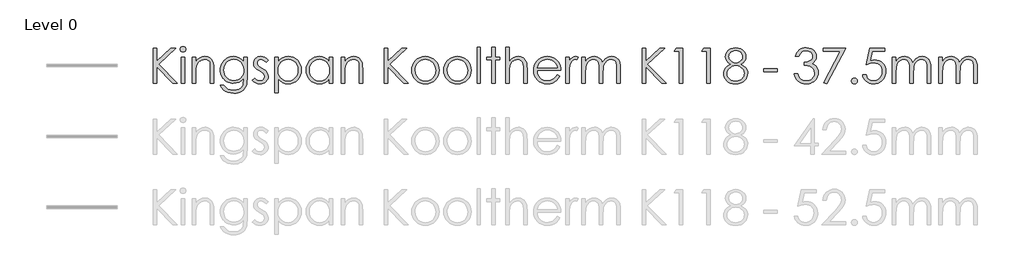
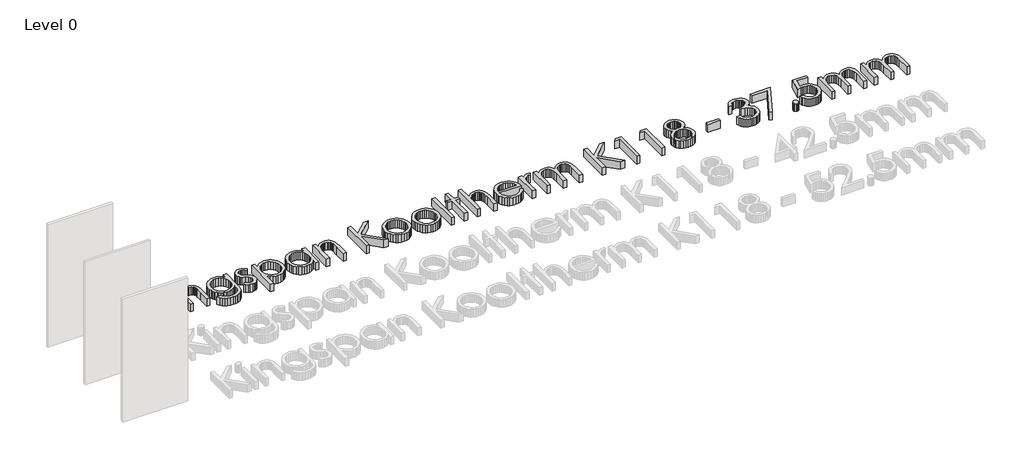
# One storey, part 8 of 8: 1 proxy.
"""IFC4 building model written with IfcOpenShell, lengths in millimetres."""

from ifc_helpers import new_model, si_unit, origin, origin_with_axes, place, context, project, spatial, polyline, outline, extrude, element, save

model = new_model("IFC4")

# Units and contexts
model_context = context("Model", 3, world=origin())
ifc_project = project(units=[si_unit("LENGTHUNIT", "METRE", prefix="MILLI")], contexts=[model_context])

# Site, building, storey
site = spatial("IfcSite", under=ifc_project)
building = spatial("IfcBuilding", under=site)
storey = spatial("IfcBuildingStorey", under=building, Name="Level 0", Elevation=0.0)

# Proxy
placement = place(None, origin())
element("IfcBuildingElementProxy", 1, Name="600mm KI_CenturyGothic", ObjectType="600mm KI_CenturyGothic", at=placement, inside=storey, context=model_context, shape_type="SweptSolid", body=[
    extrude(outline(polyline([(-3852.2663848, 5900.8965983), (-3792.944575, 5900.8965983), (-3792.944575, 5681.683973), (-3555.1938841, 5900.8965983), (-3471.6181051, 5900.8965983), (-3760.9664119, 5633.9484541), (-3441.9572002, 5307.6785001), (-3520.8984627, 5307.6785001), (-3792.944575, 5585.9039675), (-3792.944575, 5307.6785001), (-3852.2663848, 5307.6785001), (-3852.2663848, 5900.8965983)])), origin_with_axes(), (0.0, 0.0, 1.0), 150.0),
    extrude(outline(polyline([(-3348.1854852, 5930.5575033), (-3329.145347, 5927.2747208), (-3313.1176445, 5917.4263735), (-3302.226531, 5902.9821307), (-3298.5961598, 5885.911662), (-3302.226531, 5869.0729191), (-3313.1176445, 5854.7059183), (-3329.145347, 5844.857571), (-3348.1854852, 5841.5747885), (-3366.9938975, 5844.857571), (-3382.9443581, 5854.7059183), (-3393.8354717, 5869.0729191), (-3397.4658428, 5885.911662), (-3393.8354717, 5902.9821307), (-3382.9443581, 5917.4263735), (-3366.9938975, 5927.2747208), (-3348.1854852, 5930.5575033)])), origin_with_axes(), (0.0, 0.0, 1.0), 150.0),
    extrude(outline(polyline([(-3377.6919062, 5752.5920738), (-3318.3700964, 5752.5920738), (-3318.3700964, 5307.6785001), (-3377.6919062, 5307.6785001), (-3377.6919062, 5752.5920738)])), origin_with_axes(), (0.0, 0.0, 1.0), 150.0),
    extrude(outline(polyline([(-3189.8395084, 5752.5920738), (-3130.5176986, 5752.5920738), (-3130.5176986, 5673.4963274), (-3096.9946967, 5713.0055796), (-3060.0730495, 5740.696815), (-3019.7141359, 5757.0334853), (-2975.879335, 5762.4790421), (-2953.4357238, 5760.9004099), (-2932.2955704, 5756.1645135), (-2912.4588747, 5748.2713528), (-2893.9256368, 5737.2209277), (-2877.212412, 5723.4960006), (-2862.835756, 5707.5793333), (-2841.0921499, 5669.1707787), (-2833.6238199, 5644.7912914), (-2828.2892984, 5614.4448643), (-2824.0216812, 5535.8511905), (-2824.0216812, 5307.6785001), (-2883.343491, 5307.6785001), (-2883.343491, 5520.8662542), (-2883.343491, 5623.907002), (-2884.7290183, 5644.7043943), (-2889.8125035, 5662.7596977), (-2898.2849788, 5678.0729123), (-2910.1464442, 5690.644038), (-2924.7403432, 5700.4441091), (-2941.4101193, 5707.4441599), (-2980.977303, 5713.0442006), (-3005.3471351, 5710.8862539), (-3028.4038541, 5704.4124138), (-3050.1474602, 5693.6226803), (-3070.5779533, 5678.5170534), (-3088.6622225, 5660.2348518), (-3103.3671568, 5639.915394), (-3114.6927562, 5617.55868), (-3122.6390208, 5593.1647099), (-3128.5480292, 5546.0857475), (-3130.5176986, 5471.5858965), (-3130.5176986, 5307.6785001), (-3189.8395084, 5307.6785001), (-3189.8395084, 5752.5920738)])), origin_with_axes(), (0.0, 0.0, 1.0), 150.0),
    extrude(outline(polyline([(-2319.7862977, 5752.5920738), (-2260.4644879, 5752.5920738), (-2260.4644879, 5401.604699), (-2264.5196897, 5321.3503235), (-2269.588692, 5290.5500999), (-2276.6852953, 5265.9678526), (-2289.9371156, 5237.3545415), (-2307.2924139, 5212.2267729), (-2328.7511904, 5190.5845469), (-2354.3134448, 5172.4278634), (-2383.3226209, 5158.0656902), (-2415.122162, 5147.8069951), (-2449.7120682, 5141.651778), (-2487.0923395, 5139.6000389), (-2541.0458345, 5143.6166198), (-2589.206184, 5155.6663624), (-2630.260275, 5174.4940853), (-2662.8949946, 5198.8446068), (-2690.2000204, 5232.1938144), (-2715.2650299, 5278.0175952), (-2655.94322, 5278.0175952), (-2642.4355358, 5256.848476), (-2627.0933555, 5238.6048954), (-2609.9166791, 5223.2868532), (-2590.9055067, 5210.8943494), (-2569.7894914, 5201.3308318), (-2546.2982864, 5194.4997477), (-2492.1903075, 5189.0348805), (-2438.5071593, 5194.3645743), (-2415.083541, 5201.0266916), (-2393.93856, 5210.3536559), (-2359.6624492, 5234.3952097), (-2336.8567664, 5263.8823202), (-2329.3884364, 5282.5217658), (-2324.0539149, 5306.2302137), (-2319.7862977, 5368.8541165), (-2319.7862977, 5391.5632468), (-2354.757586, 5355.7809182), (-2396.6420279, 5329.3834852), (-2443.392712, 5313.1047464), (-2492.9627269, 5307.6785001), (-2522.4063889, 5309.5757553), (-2550.9521133, 5315.2675207), (-2578.5999001, 5324.7537964), (-2605.3497494, 5338.0345825), (-2630.1540674, 5354.5257366), (-2651.9652601, 5373.6431168), (-2670.7833277, 5395.3867228), (-2686.6082702, 5419.7565549), (-2699.1456025, 5446.0719183), (-2708.1008399, 5473.6521184), (-2713.4739824, 5502.4971553), (-2715.2650299, 5532.607029), (-2713.3967404, 5562.8955247), (-2707.7918722, 5592.1219437), (-2698.4504251, 5620.286286), (-2685.3723991, 5647.3885517), (-2668.9971079, 5672.5742517), (-2649.7638648, 5694.9888971), (-2627.67267, 5714.632488), (-2602.7235235, 5731.5050242), (-2575.9833294, 5745.056157), (-2548.5189922, 5754.7355376), (-2520.3305117, 5760.543166), (-2491.4178881, 5762.4790421), (-2444.5320306, 5757.5355579), (-2400.8903346, 5742.7051055), (-2359.6045177, 5716.1338782), (-2319.7862977, 5675.9680694), (-2319.7862977, 5752.5920738)]), holes=[polyline([(-2484.1571458, 5713.0442006), (-2529.0154023, 5707.0193293), (-2570.5908765, 5688.9447153), (-2606.2187212, 5660.2300242), (-2633.2340897, 5622.2849212), (-2650.2659375, 5578.0059792), (-2655.94322, 5530.2897708), (-2653.0080263, 5494.3770964), (-2644.2024452, 5461.7182387), (-2629.5264766, 5432.3131977), (-2608.9801206, 5406.1619734), (-2583.7606272, 5384.703197), (-2555.0652466, 5369.3754996), (-2522.8939786, 5360.1788811), (-2487.2468234, 5357.1133416), (-2451.3244937, 5360.154743), (-2419.1001219, 5369.2789472), (-2390.573708, 5384.4859541), (-2365.7452519, 5405.7757637), (-2345.6382095, 5432.0187128), (-2331.2760363, 5462.0851379), (-2322.6587323, 5495.975039), (-2319.7862977, 5533.6884162), (-2325.0773706, 5582.3894593), (-2340.9505892, 5625.6063246), (-2366.4983608, 5661.8327944), (-2400.8130926, 5689.5626508), (-2440.9982119, 5707.1738131), (-2484.1571458, 5713.0442006)])]), origin_with_axes(), (0.0, 0.0, 1.0), 150.0),
    extrude(outline(polyline([(-1904.5336289, 5701.3034257), (-1940.9918246, 5663.609359), (-1962.9575012, 5685.2371022), (-1984.6721416, 5700.6854902), (-2006.1357456, 5709.954523), (-2027.3483133, 5713.0442006), (-2052.181597, 5708.3710632), (-2073.2300256, 5694.3516511), (-2087.5970264, 5674.1142629), (-2092.3860267, 5650.787197), (-2088.4466878, 5629.2366958), (-2076.628671, 5608.7675817), (-2052.0657341, 5586.599145), (-2010.2006027, 5560.877579), (-1958.3326401, 5528.0111336), (-1939.8428507, 5512.1861912), (-1926.315856, 5496.7667689), (-1909.9791857, 5464.0934284), (-1904.5336289, 5427.5579908), (-1906.9474396, 5401.4115941), (-1914.1888714, 5377.3507299), (-1926.2579245, 5355.375398), (-1943.1545989, 5335.4855985), (-1963.6719892, 5318.9944443), (-1986.6031901, 5307.2150485), (-2011.9482016, 5300.147411), (-2039.7070237, 5297.7915318), (-2077.4397114, 5301.6729393), (-2113.3958344, 5313.3171617), (-2145.4512394, 5331.7972958), (-2171.4817731, 5356.1864383), (-2135.7959969, 5396.6612148), (-2114.0041146, 5375.0334717), (-2091.5749863, 5359.5850837), (-2068.5086121, 5350.3160509), (-2044.8049918, 5347.2263733), (-2013.637869, 5352.8650349), (-1987.4914724, 5369.7810198), (-1969.7644472, 5394.3439566), (-1963.8554388, 5422.9234744), (-1967.7561567, 5446.7139919), (-1979.4583106, 5467.7237995), (-2005.0253927, 5489.4287846), (-2050.2119275, 5516.2317378), (-2099.762632, 5546.8967879), (-2117.441381, 5562.0555186), (-2130.3890611, 5577.0983864), (-2146.3781427, 5609.2310334), (-2151.7078365, 5645.689229), (-2149.5305794, 5669.7356104), (-2142.9988078, 5691.6674937), (-2132.1125219, 5711.4848789), (-2116.8717217, 5729.187766), (-2098.309518, 5743.7526993), (-2077.4590218, 5754.1562231), (-2054.3202332, 5760.3983373), (-2028.8931521, 5762.4790421), (-1997.9481, 5758.6555661), (-1966.9064954, 5747.185138), (-1935.7683384, 5728.0677579), (-1904.5336289, 5701.3034257)])), origin_with_axes(), (0.0, 0.0, 1.0), 150.0),
    extrude(outline(polyline([(-1795.7769776, 5752.5920738), (-1736.4551678, 5752.5920738), (-1736.4551678, 5671.4880369), (-1700.9238754, 5711.7310876), (-1660.4490989, 5740.0788795), (-1614.9922173, 5756.8790014), (-1564.5146096, 5762.4790421), (-1520.0618732, 5758.2403906), (-1478.9305402, 5745.5244363), (-1441.1206107, 5724.331179), (-1406.6320845, 5694.6606189), (-1377.9077381, 5659.0231189), (-1357.3903478, 5619.929042), (-1345.0799137, 5577.3783884), (-1340.9764356, 5531.371158), (-1345.0412927, 5484.4708176), (-1357.235864, 5441.2491246), (-1377.5601494, 5401.706079), (-1406.014149, 5365.8416808), (-1440.2130179, 5336.0697406), (-1477.7719111, 5314.8040691), (-1518.6908288, 5302.0446661), (-1562.9697708, 5297.7915318), (-1612.6170277, 5303.256399), (-1658.0545988, 5319.6510008), (-1699.3211052, 5346.8980951), (-1736.4551678, 5384.92044), (-1736.4551678, 5149.4870072), (-1795.7769776, 5149.4870072), (-1795.7769776, 5752.5920738)]), holes=[polyline([(-1568.5311905, 5713.0442006), (-1602.5852307, 5709.7469353), (-1633.8392507, 5699.8551393), (-1662.2932503, 5683.3688128), (-1687.9472295, 5660.2879556), (-1709.1694525, 5632.3022353), (-1724.3281832, 5601.1013192), (-1733.4234216, 5566.6852074), (-1736.4551678, 5529.0538998), (-1731.048232, 5480.1983728), (-1714.8274246, 5436.5180558), (-1688.5265441, 5399.6736505), (-1652.8793888, 5371.3258586), (-1611.4390881, 5353.2512446), (-1567.7587711, 5347.2263733), (-1525.0632888, 5353.2898656), (-1485.0326535, 5371.4803424), (-1450.2544701, 5400.5812433), (-1423.3163435, 5439.3760076), (-1406.05277, 5484.0411593), (-1400.2982454, 5530.7532225), (-1405.9948385, 5577.6970114), (-1423.0846177, 5622.1304373), (-1449.8103289, 5660.4810605), (-1484.414718, 5689.1764411), (-1524.7157001, 5707.0772607), (-1568.5311905, 5713.0442006)])]), origin_with_axes(), (0.0, 0.0, 1.0), 150.0),
    extrude(outline(polyline([(-807.0801472, 5752.5920738), (-807.0801472, 5307.6785001), (-866.401957, 5307.6785001), (-866.401957, 5383.5300851), (-903.4780882, 5345.6815345), (-944.8797679, 5318.9558233), (-990.4525125, 5303.0826047), (-1040.0418379, 5297.7915318), (-1084.3159523, 5302.0446661), (-1125.2203871, 5314.8040691), (-1162.7551422, 5336.0697406), (-1196.9202178, 5365.8416808), (-1225.340424, 5401.706079), (-1245.6405713, 5441.2491246), (-1257.8206597, 5484.4708176), (-1261.8806892, 5531.371158), (-1257.7820388, 5577.3783884), (-1245.4860875, 5619.929042), (-1224.9928353, 5659.0231189), (-1196.3022822, 5694.6606189), (-1161.8475494, 5724.331179), (-1124.061758, 5745.5244363), (-1082.9449079, 5758.2403906), (-1038.4969991, 5762.4790421), (-987.7490446, 5756.8790014), (-942.0990581, 5740.0788795), (-921.2051134, 5727.3918909), (-901.6242816, 5711.7310876), (-866.401957, 5671.4880369), (-866.401957, 5752.5920738), (-807.0801472, 5752.5920738)]), holes=[polyline([(-1034.3259343, 5713.0442006), (-1078.1414247, 5707.0772607), (-1118.4424068, 5689.1764411), (-1153.0467959, 5660.4810605), (-1179.7725071, 5622.1304373), (-1196.8622863, 5577.6970114), (-1202.5588794, 5530.7532225), (-1196.8043548, 5484.0411593), (-1179.5407813, 5439.3760076), (-1152.6026548, 5400.5812433), (-1117.8244713, 5371.4803424), (-1077.6779731, 5353.2898656), (-1034.6349021, 5347.2263733), (-991.0125165, 5353.2512446), (-949.7460102, 5371.3258586), (-914.2726493, 5399.6736505), (-888.0297002, 5436.5180558), (-871.8088928, 5480.1983728), (-866.401957, 5529.0538998), (-869.4337032, 5566.6852074), (-878.5289416, 5601.1013192), (-893.6876723, 5632.3022353), (-914.9098953, 5660.2879556), (-940.5638746, 5683.3688128), (-969.0178742, 5699.8551393), (-1000.2718941, 5709.7469353), (-1034.3259343, 5713.0442006)])]), origin_with_axes(), (0.0, 0.0, 1.0), 150.0),
    extrude(outline(polyline([(-668.662591, 5752.5920738), (-609.3407811, 5752.5920738), (-609.3407811, 5673.4963274), (-575.8177792, 5713.0055796), (-538.896132, 5740.696815), (-498.5372184, 5757.0334853), (-454.7024175, 5762.4790421), (-432.2588064, 5760.9004099), (-411.1186529, 5756.1645135), (-391.2819572, 5748.2713528), (-372.7487193, 5737.2209277), (-356.0354946, 5723.4960006), (-341.6588385, 5707.5793333), (-319.9152324, 5669.1707787), (-312.4469024, 5644.7912914), (-307.1123809, 5614.4448643), (-302.8447637, 5535.8511905), (-302.8447637, 5307.6785001), (-362.1665735, 5307.6785001), (-362.1665735, 5520.8662542), (-362.1665735, 5623.907002), (-363.5521008, 5644.7043943), (-368.635586, 5662.7596977), (-377.1080613, 5678.0729123), (-388.9695267, 5690.644038), (-403.5634257, 5700.4441091), (-420.2332018, 5707.4441599), (-459.8003855, 5713.0442006), (-484.1702176, 5710.8862539), (-507.2269366, 5704.4124138), (-528.9705427, 5693.6226803), (-549.4010358, 5678.5170534), (-567.485305, 5660.2348518), (-582.1902393, 5639.915394), (-593.5158387, 5617.55868), (-601.4621033, 5593.1647099), (-607.3711117, 5546.0857475), (-609.3407811, 5471.5858965), (-609.3407811, 5307.6785001), (-668.662591, 5307.6785001), (-668.662591, 5752.5920738)])), origin_with_axes(), (0.0, 0.0, 1.0), 150.0),
    extrude(outline(polyline([(62.9730635, 5900.8965983), (122.2948734, 5900.8965983), (122.2948734, 5681.683973), (360.0455643, 5900.8965983), (443.6213432, 5900.8965983), (154.2730365, 5633.9484541), (473.2822481, 5307.6785001), (394.3409856, 5307.6785001), (122.2948734, 5585.9039675), (122.2948734, 5307.6785001), (62.9730635, 5307.6785001), (62.9730635, 5900.8965983)])), origin_with_axes(), (0.0, 0.0, 1.0), 150.0),
    extrude(outline(polyline([(760.1588128, 5762.4790421), (809.4681362, 5757.8541809), (854.3553585, 5743.9795975), (894.8204798, 5720.8552917), (930.8635, 5688.4812637), (957.7630055, 5653.2492839), (976.9769381, 5614.908316), (988.5052976, 5573.45836), (992.3480841, 5528.8994159), (988.283227, 5484.0846079), (976.0886558, 5442.1760279), (955.7643703, 5403.1736759), (927.3103707, 5367.0775519), (892.4742558, 5336.7649181), (853.0036246, 5315.1130368), (808.8984769, 5302.1219081), (760.1588128, 5297.7915318), (711.2839754, 5302.1219081), (667.0822753, 5315.1130368), (627.5537126, 5336.7649181), (592.6982872, 5367.0775519), (564.2442876, 5403.1736759), (543.9200022, 5442.1760279), (531.7254309, 5484.0846079), (527.6605738, 5528.8994159), (531.5033603, 5573.2652551), (543.0317198, 5614.5993482), (562.2456524, 5652.9016951), (589.145158, 5688.1722959), (625.2074886, 5720.6814974), (665.7305413, 5743.9023555), (710.7143161, 5757.8348705), (760.1588128, 5762.4790421)]), holes=[polyline([(760.004329, 5713.0442006), (725.7282181, 5709.6696933), (693.9624704, 5699.5461716), (664.7070856, 5682.6736353), (637.962064, 5659.0520846), (615.6584538, 5630.6415336), (599.7273037, 5599.4019965), (590.1686137, 5565.3334734), (586.9823836, 5528.4359643), (592.7948396, 5480.7004454), (610.2322075, 5436.3635719), (637.5758543, 5398.5729529), (673.1071466, 5370.4761972), (714.6439998, 5353.0388293), (760.004329, 5347.2263733), (805.3646581, 5353.0388293), (846.9015113, 5370.4761972), (882.4328037, 5398.5729529), (909.7764504, 5436.3635719), (927.2138183, 5480.7004454), (933.0262743, 5528.4359643), (929.8255614, 5565.3334734), (920.2234227, 5599.4019965), (904.2198583, 5630.6415336), (881.8148681, 5659.0520846), (854.9974321, 5682.6736353), (825.7565303, 5699.5461716), (794.0921625, 5709.6696933), (760.004329, 5713.0442006)])]), origin_with_axes(), (0.0, 0.0, 1.0), 150.0),
    extrude(outline(polyline([(1303.9420695, 5762.4790421), (1353.2513929, 5757.8541809), (1398.1386152, 5743.9795975), (1438.6037365, 5720.8552917), (1474.6467567, 5688.4812637), (1501.5462622, 5653.2492839), (1520.7601948, 5614.908316), (1532.2885543, 5573.45836), (1536.1313408, 5528.8994159), (1532.0664837, 5484.0846079), (1519.8719125, 5442.1760279), (1499.547627, 5403.1736759), (1471.0936274, 5367.0775519), (1436.2575126, 5336.7649181), (1396.7868813, 5315.1130368), (1352.6817336, 5302.1219081), (1303.9420695, 5297.7915318), (1255.0672321, 5302.1219081), (1210.865532, 5315.1130368), (1171.3369693, 5336.7649181), (1136.4815439, 5367.0775519), (1108.0275443, 5403.1736759), (1087.7032589, 5442.1760279), (1075.5086876, 5484.0846079), (1071.4438305, 5528.8994159), (1075.286617, 5573.2652551), (1086.8149766, 5614.5993482), (1106.0289091, 5652.9016951), (1132.9284147, 5688.1722959), (1168.9907453, 5720.6814974), (1209.5137981, 5743.9023555), (1254.4975728, 5757.8348705), (1303.9420695, 5762.4790421)]), holes=[polyline([(1303.7875857, 5713.0442006), (1269.5114748, 5709.6696933), (1237.7457271, 5699.5461716), (1208.4903423, 5682.6736353), (1181.7453207, 5659.0520846), (1159.4417105, 5630.6415336), (1143.5105604, 5599.4019965), (1133.9518704, 5565.3334734), (1130.7656404, 5528.4359643), (1136.5780963, 5480.7004454), (1154.0154643, 5436.3635719), (1181.359111, 5398.5729529), (1216.8904033, 5370.4761972), (1258.4272565, 5353.0388293), (1303.7875857, 5347.2263733), (1349.1479149, 5353.0388293), (1390.684768, 5370.4761972), (1426.2160604, 5398.5729529), (1453.5597071, 5436.3635719), (1470.997075, 5480.7004454), (1476.809531, 5528.4359643), (1473.6088181, 5565.3334734), (1464.0066795, 5599.4019965), (1448.003115, 5630.6415336), (1425.5981249, 5659.0520846), (1398.7806889, 5682.6736353), (1369.539787, 5699.5461716), (1337.8754193, 5709.6696933), (1303.7875857, 5713.0442006)])]), origin_with_axes(), (0.0, 0.0, 1.0), 150.0),
    extrude(outline(polyline([(1635.0010238, 5920.6705349), (1694.3228337, 5920.6705349), (1694.3228337, 5307.6785001), (1635.0010238, 5307.6785001), (1635.0010238, 5920.6705349)])), origin_with_axes(), (0.0, 0.0, 1.0), 150.0),
    extrude(outline(polyline([(1882.1752314, 5920.6705349), (1941.4970413, 5920.6705349), (1941.4970413, 5752.5920738), (2020.5927877, 5752.5920738), (2020.5927877, 5703.1572323), (1941.4970413, 5703.1572323), (1941.4970413, 5307.6785001), (1882.1752314, 5307.6785001), (1882.1752314, 5703.1572323), (1803.079485, 5703.1572323), (1803.079485, 5752.5920738), (1882.1752314, 5752.5920738), (1882.1752314, 5920.6705349)])), origin_with_axes(), (0.0, 0.0, 1.0), 150.0),
    extrude(outline(polyline([(2119.4624707, 5920.6705349), (2178.7842806, 5920.6705349), (2178.7842806, 5671.9514886), (2212.5583188, 5711.6538456), (2249.6151394, 5739.9243956), (2289.9161216, 5756.8403805), (2333.4226442, 5762.4790421), (2355.8662553, 5760.9004099), (2377.0064088, 5756.1645135), (2396.8431044, 5748.2713528), (2415.3763424, 5737.2209277), (2432.0895671, 5723.5104834), (2446.4662232, 5707.6372648), (2468.2098293, 5669.4025045), (2475.6781593, 5645.0954316), (2481.0126808, 5614.7345216), (2485.280298, 5535.8511905), (2485.280298, 5307.6785001), (2425.9584882, 5307.6785001), (2425.9584882, 5520.8662542), (2424.5681332, 5585.247411), (2420.3970685, 5623.907002), (2406.879729, 5662.7596977), (2397.1665551, 5678.0729123), (2385.4837117, 5690.644038), (2371.840854, 5700.4441091), (2356.2476374, 5707.4441599), (2319.2101273, 5713.0442006), (2296.3416854, 5710.8862539), (2274.6994594, 5704.4124138), (2254.2834492, 5693.6226803), (2235.0936547, 5678.5170534), (2218.1052556, 5660.2348518), (2204.2934312, 5639.915394), (2193.6581816, 5617.55868), (2186.1995068, 5593.1647099), (2180.6380871, 5546.3174733), (2178.7842806, 5471.5858965), (2178.7842806, 5307.6785001), (2119.4624707, 5307.6785001), (2119.4624707, 5920.6705349)])), origin_with_axes(), (0.0, 0.0, 1.0), 150.0),
    extrude(outline(polyline([(2991.0605203, 5455.9830247), (3038.950523, 5430.8021523), (3013.3255094, 5388.9177104), (2984.0315038, 5355.9547125), (2950.952643, 5330.8703926), (2913.9730643, 5312.6219843), (2872.4941426, 5301.4991449), (2825.9172528, 5297.7915318), (2774.4258447, 5302.2232881), (2728.8627554, 5315.518557), (2689.227985, 5337.6773385), (2655.5215335, 5368.6996326), (2628.6220279, 5405.3026569), (2609.4080954, 5444.2036288), (2597.8797358, 5485.4025485), (2594.0369493, 5528.8994159), (2597.3197318, 5569.7797126), (2607.1680791, 5608.381372), (2623.5819913, 5644.7043943), (2646.5614684, 5678.7487793), (2682.7493173, 5715.3807692), (2724.5758277, 5741.5464764), (2772.0409998, 5757.2459007), (2825.1448334, 5762.4790421), (2879.7935059, 5757.1107273), (2928.6490329, 5741.0057828), (2971.7114143, 5714.1642087), (3008.9806503, 5676.5860049), (3030.4539096, 5644.414737), (3045.9022976, 5608.458614), (3055.3258143, 5568.7176359), (3058.7244596, 5525.1918028), (2653.3587591, 5525.1918028), (2657.095338, 5487.9370497), (2666.6057518, 5454.1871496), (2681.8900007, 5423.9421025), (2702.9480845, 5397.2019084), (2728.3124066, 5375.3376118), (2756.5153699, 5359.7202571), (2787.5569744, 5350.3498443), (2821.4372203, 5347.2263733), (2854.9602222, 5350.238809), (2887.5563208, 5359.2761159), (2917.2944677, 5373.3148385), (2942.2436143, 5391.331521), (2965.725164, 5417.4972281), (2991.0605203, 5455.9830247)]), holes=[polyline([(2999.4026498, 5574.6266443), (2984.9777175, 5617.1483322), (2965.1844704, 5650.1692615), (2939.0766947, 5675.6977226), (2905.7081767, 5695.742006), (2867.7630738, 5708.7186519), (2827.9255433, 5713.0442006), (2795.503239, 5710.3310774), (2765.4368139, 5702.191708), (2737.726268, 5688.6260923), (2712.3716012, 5669.6342304), (2695.8321708, 5651.820308), (2681.4362043, 5630.0477362), (2669.1837016, 5604.316515), (2659.0746627, 5574.6266443), (2999.4026498, 5574.6266443)])]), origin_with_axes(), (0.0, 0.0, 1.0), 150.0),
    extrude(outline(polyline([(3137.820206, 5752.5920738), (3197.1420159, 5752.5920738), (3197.1420159, 5688.1722959), (3222.6897875, 5721.2125357), (3249.589293, 5744.3271862), (3277.7632906, 5757.9410781), (3307.1345382, 5762.4790421), (3330.4616041, 5758.694187), (3355.3335087, 5747.3396219), (3325.8270877, 5705.3200066), (3297.2475699, 5713.0442006), (3270.8308265, 5707.0965712), (3245.3409863, 5689.2536831), (3223.2884125, 5658.8976007), (3207.183468, 5615.4103886), (3199.6523789, 5557.2858288), (3197.1420159, 5459.8451217), (3197.1420159, 5307.6785001), (3137.820206, 5307.6785001), (3137.820206, 5752.5920738)])), origin_with_axes(), (0.0, 0.0, 1.0), 150.0),
    extrude(outline(polyline([(3414.6553185, 5752.5920738), (3473.9771284, 5752.5920738), (3473.9771284, 5676.4315211), (3503.5607913, 5712.9283377), (3533.9168737, 5738.0705891), (3577.3268439, 5756.3769288), (3622.8995884, 5762.4790421), (3653.7384329, 5759.331433), (3682.9165757, 5749.8886059), (3708.6767627, 5735.2126373), (3729.2617397, 5716.365604), (3746.0425511, 5690.9336953), (3760.3902414, 5656.5031006), (3775.16759, 5680.9018983), (3791.6925376, 5702.191708), (3809.965084, 5720.3725296), (3829.9852293, 5735.4443631), (3851.2798666, 5747.2720352), (3873.375889, 5755.7203723), (3896.2732965, 5760.7893747), (3919.9720892, 5762.4790421), (3962.3006723, 5756.6665861), (3981.4952943, 5749.4010161), (3999.3768034, 5739.2292182), (4015.4914031, 5726.46016), (4029.385297, 5711.4028093), (4050.5109676, 5674.4232306), (4057.8103309, 5651.0478886), (4063.0241619, 5622.4780261), (4067.1952266, 5549.7547397), (4067.1952266, 5307.6785001), (4007.8734168, 5307.6785001), (4007.8734168, 5553.3078689), (4005.4209852, 5614.4255538), (3998.0636904, 5652.8727294), (3984.7587663, 5677.3391139), (3964.4634466, 5696.5144254), (3938.3942919, 5708.9117568), (3907.7678627, 5713.0442006), (3888.1194443, 5711.4945341), (3869.3399976, 5706.8455349), (3834.3880198, 5688.2495379), (3805.6540182, 5659.3031209), (3785.8800816, 5622.0531954), (3779.1889985, 5597.8957787), (3774.4096535, 5566.8252084), (3770.5861775, 5483.9446069), (3770.5861775, 5307.6785001), (3711.2643677, 5307.6785001), (3711.2643677, 5538.0139648), (3708.850557, 5606.469634), (3701.6091252, 5648.7016647), (3688.3621325, 5674.9446137), (3667.9316394, 5695.4330383), (3641.6114484, 5708.64141), (3610.6953619, 5713.0442006), (3573.7544042, 5707.0000188), (3539.2465676, 5688.8674734), (3510.2808401, 5660.500371), (3489.9662099, 5623.7525181), (3477.9743988, 5571.9231764), (3473.9771284, 5498.3116077), (3473.9771284, 5307.6785001), (3414.6553185, 5307.6785001), (3414.6553185, 5752.5920738)])), origin_with_axes(), (0.0, 0.0, 1.0), 150.0),
    extrude(outline(polyline([(4433.0130538, 5900.8965983), (4492.3348637, 5900.8965983), (4492.3348637, 5681.683973), (4730.0855546, 5900.8965983), (4813.6613335, 5900.8965983), (4524.3130268, 5633.9484541), (4843.3222385, 5307.6785001), (4764.3809759, 5307.6785001), (4492.3348637, 5585.9039675), (4492.3348637, 5307.6785001), (4433.0130538, 5307.6785001), (4433.0130538, 5900.8965983)])), origin_with_axes(), (0.0, 0.0, 1.0), 150.0),
    extrude(outline(polyline([(5010.6282802, 5900.8965983), (5125.1008351, 5900.8965983), (5125.1008351, 5307.6785001), (5065.7790253, 5307.6785001), (5065.7790253, 5851.4617568), (4976.7963106, 5851.4617568), (5010.6282802, 5900.8965983)])), origin_with_axes(), (0.0, 0.0, 1.0), 150.0),
    extrude(outline(polyline([(5475.3157905, 5900.8965983), (5589.7883454, 5900.8965983), (5589.7883454, 5307.6785001), (5530.4665356, 5307.6785001), (5530.4665356, 5851.4617568), (5441.4838208, 5851.4617568), (5475.3157905, 5900.8965983)])), origin_with_axes(), (0.0, 0.0, 1.0), 150.0),
    extrude(outline(polyline([(6107.7727942, 5631.7856798), (6159.8724826, 5600.3868313), (6179.6946955, 5583.1522234), (6195.365154, 5564.8941599), (6207.2604128, 5545.4774673), (6215.7570261, 5524.7669721), (6220.8549942, 5502.7626745), (6222.5543169, 5479.4645744), (6219.734986, 5446.7815786), (6211.2769936, 5416.0875627), (6197.1803396, 5387.3825268), (6177.445024, 5360.6664709), (6146.7510081, 5333.158685), (6110.1286734, 5313.5102666), (6067.5780197, 5301.7212155), (6019.0990472, 5297.7915318), (5972.4352603, 5301.243281), (5931.7770342, 5311.5985286), (5897.1243689, 5328.8572745), (5868.4772645, 5353.0195188), (5846.0384809, 5381.3335174), (5830.0107784, 5411.0475261), (5820.3941569, 5442.161545), (5817.1886164, 5474.6755741), (5818.9024219, 5498.4033325), (5824.0438386, 5520.9241856), (5832.6128663, 5542.2381334), (5844.609505, 5562.3451759), (5860.5068618, 5581.3128997), (5880.7780434, 5599.2088917), (5905.4230498, 5616.0331517), (5934.4418811, 5631.7856798), (5896.0719475, 5656.7348264), (5868.7089903, 5687.0909088), (5852.3143886, 5721.3477091), (5846.8495213, 5757.9990096), (5852.6426668, 5795.7123867), (5870.0221033, 5832.5374816), (5897.6360968, 5865.0563382), (5934.1329134, 5889.8510009), (5976.7318432, 5905.5504252), (6022.6521765, 5910.7835666), (6067.3945701, 5905.5118042), (6108.6224555, 5889.6965171), (6143.8254696, 5864.8246124), (6170.4932494, 5832.3829977), (6187.2933713, 5795.2489351), (6192.8934119, 5756.2996869), (6187.5830286, 5718.7601041), (6171.6518785, 5685.54607), (6145.0613407, 5656.5803425), (6107.7727942, 5631.7856798)]), holes=[polyline([(6022.9611442, 5604.2875492), (5993.0926516, 5601.7771862), (5965.7441773, 5594.246097), (5940.9157212, 5581.6942818), (5918.6072834, 5564.1217405), (5900.1899084, 5543.2181405), (5887.0346405, 5520.6731493), (5879.1414798, 5496.4867669), (5876.5104262, 5470.6589932), (5881.0097692, 5438.5456567), (5894.5077982, 5408.3247478), (5916.0776099, 5382.3907665), (5944.7923011, 5363.1382129), (5979.6670369, 5351.2043332), (6019.7169827, 5347.2263733), (6050.9372093, 5349.6450116), (6078.7877563, 5356.9009263), (6103.2686236, 5368.9941175), (6124.3798113, 5385.9245852), (6141.3778657, 5406.0895591), (6153.5193331, 5427.886269), (6160.8042135, 5451.3147149), (6163.232507, 5476.3748968), (6160.6642125, 5500.7061079), (6152.959329, 5523.646964), (6140.1178565, 5545.1974652), (6122.139795, 5565.3576115), (6100.5313623, 5582.3894593), (6076.7987763, 5594.5550648), (6050.9420369, 5601.8544281), (6022.9611442, 5604.2875492)]), polyline([(6019.7169827, 5861.3487251), (5996.2112949, 5859.4900909), (5974.8201052, 5853.9141884), (5955.5434136, 5844.6210175), (5938.3812201, 5831.6105783), (5924.2893937, 5816.0221893), (5914.2238034, 5798.9951692), (5908.1844492, 5780.5295179), (5906.1713311, 5760.6252355), (5908.3389331, 5740.7161255), (5914.8417389, 5721.7725398), (5925.6797486, 5703.7944783), (5940.8529621, 5686.781941), (5958.9130932, 5672.3183878), (5978.4118554, 5661.9872783), (5999.3492487, 5655.7886126), (6021.7252732, 5653.7223907), (6050.4399643, 5657.4686248), (6077.5711957, 5668.7073271), (6101.0334349, 5686.4536628), (6118.7411497, 5709.7227972), (6129.863989, 5735.7726414), (6133.5716021, 5761.8611066), (6131.7467613, 5780.0322729), (6126.2722388, 5797.4696408), (6117.1480347, 5814.1732103), (6104.3741488, 5830.1429814), (6088.134031, 5843.7954943), (6068.6111307, 5853.5472892), (6045.8054479, 5859.3983661), (6019.7169827, 5861.3487251)])]), origin_with_axes(), (0.0, 0.0, 1.0), 150.0),
    extrude(outline(polyline([(6499.3894294, 5554.8527077), (6726.7897004, 5554.8527077), (6726.7897004, 5505.4178662), (6499.3894294, 5505.4178662), (6499.3894294, 5554.8527077)])), origin_with_axes(), (0.0, 0.0, 1.0), 150.0),
    extrude(outline(polyline([(7092.6075276, 5762.4790421), (7033.2857178, 5762.4790421), (7043.8099321, 5796.1082517), (7058.2348644, 5825.6243279), (7076.5605146, 5851.0272709), (7098.7868828, 5872.3170806), (7124.0546524, 5889.1461682), (7151.5045067, 5901.1669451), (7181.1364459, 5908.3794113), (7212.9504699, 5910.7835666), (7259.2377024, 5905.6276672), (7302.3193944, 5890.1599687), (7339.1058682, 5865.9446205), (7366.5074464, 5834.545772), (7383.5392941, 5798.7634433), (7389.2165767, 5761.3976549), (7384.5337841, 5725.962915), (7370.4854063, 5694.4288931), (7347.0714433, 5666.7955891), (7314.291895, 5643.063003), (7351.6769939, 5621.8987115), (7381.6468666, 5592.7012582), (7397.9352607, 5568.601773), (7409.5698279, 5543.1119328), (7416.5505682, 5516.2317378), (7418.8774816, 5487.9611878), (7417.1781589, 5463.2968708), (7412.0801909, 5439.2022132), (7403.5835775, 5415.6772149), (7391.6883188, 5392.7218759), (7376.8578663, 5371.3355138), (7359.5556718, 5352.5174462), (7339.7817352, 5336.2676731), (7317.5360565, 5322.5861945), (7293.3593293, 5311.7385296), (7267.7922472, 5303.9901975), (7240.8348102, 5299.3411982), (7212.4870183, 5297.7915318), (7174.9522631, 5300.4612064), (7140.6713247, 5308.47023), (7109.644203, 5321.8186027), (7081.870898, 5340.5063246), (7057.9886557, 5364.3596011), (7038.6347221, 5393.204638), (7023.8090973, 5427.0414353), (7013.5117812, 5465.869993), (7072.833591, 5465.869993), (7091.8737292, 5415.1220385), (7103.971748, 5395.830864), (7117.7884, 5380.5948913), (7137.8519939, 5365.9961647), (7160.5031927, 5355.5685028), (7185.7419966, 5349.3119057), (7213.5684054, 5347.2263733), (7244.928633, 5349.7222535), (7273.0446991, 5357.2098941), (7297.9166038, 5369.689295), (7319.5443469, 5387.1604562), (7337.0493016, 5407.9819867), (7349.5528406, 5430.512495), (7357.054964, 5454.7519812), (7359.5556718, 5480.7004454), (7354.5542562, 5515.2662135), (7339.5500094, 5547.5919654), (7316.1263911, 5574.9549226), (7285.8668612, 5594.6323067), (7242.9589636, 5607.4351583), (7181.5902423, 5614.1745175), (7181.5902423, 5663.609359), (7223.4746842, 5667.2590407), (7261.3811662, 5678.2080857), (7292.3938051, 5694.7957923), (7313.5967176, 5715.3614588), (7325.8202546, 5738.9202504), (7329.8947669, 5764.4873325), (7327.8333726, 5783.5178155), (7321.6491898, 5801.2158749), (7311.3422185, 5817.5815109), (7296.9124586, 5832.6147235), (7279.3350896, 5845.1858492), (7259.5852911, 5854.1652247), (7237.6630631, 5859.55285), (7213.5684054, 5861.3487251), (7175.5460605, 5855.729374), (7143.0465143, 5838.8713206), (7128.7422726, 5825.6677765), (7115.5676942, 5808.5345487), (7092.6075276, 5762.4790421)])), origin_with_axes(), (0.0, 0.0, 1.0), 150.0),
    extrude(outline(polyline([(7507.8601964, 5900.8965983), (7883.5649919, 5900.8965983), (7567.1820062, 5297.7915318), (7513.2671321, 5320.1916944), (7791.9560512, 5851.4617568), (7507.8601964, 5851.4617568), (7507.8601964, 5900.8965983)])), origin_with_axes(), (0.0, 0.0, 1.0), 150.0),
    extrude(outline(polyline([(8031.8695165, 5396.6612148), (8050.8903442, 5393.0694646), (8066.8601152, 5382.294214), (8077.6932973, 5366.3437534), (8081.304358, 5347.2263733), (8077.6932973, 5328.3020981), (8066.8601152, 5312.3130165), (8050.8903442, 5301.421903), (8031.8695165, 5297.7915318), (8012.8486888, 5301.421903), (7996.8789177, 5312.3130165), (7986.0457356, 5328.3020981), (7982.4346749, 5347.2263733), (7986.0457356, 5366.3437534), (7996.8789177, 5382.294214), (8012.8486888, 5393.0694646), (8031.8695165, 5396.6612148)])), origin_with_axes(), (0.0, 0.0, 1.0), 150.0),
    extrude(outline(polyline([(8545.9918683, 5900.8965983), (8545.9918683, 5851.4617568), (8338.6745016, 5851.4617568), (8304.2245965, 5690.4895541), (8341.8028002, 5699.9903127), (8375.441665, 5703.1572323), (8415.0281592, 5699.7344488), (8450.9842822, 5689.4660984), (8483.3100341, 5672.3521811), (8512.0054147, 5648.3926969), (8535.5255854, 5619.0842083), (8552.3257073, 5585.923278), (8562.4057805, 5548.909906), (8565.7658049, 5508.0440921), (8564.0423441, 5479.0783647), (8558.8719617, 5451.3485083), (8550.2546578, 5424.8545229), (8538.1904323, 5399.5964086), (8523.1861855, 5376.3948609), (8505.7488176, 5356.0705754), (8485.8783286, 5338.6235523), (8463.5747184, 5324.0537914), (8439.1421273, 5312.5640528), (8412.8846954, 5304.3570967), (8384.8024226, 5299.432923), (8354.895309, 5297.7915318), (8319.5619491, 5300.5481035), (8287.0961963, 5308.8178187), (8257.4980505, 5322.6006774), (8230.7675116, 5341.8966795), (8208.0149327, 5365.5665064), (8190.3506666, 5392.4708396), (8177.7747133, 5422.609679), (8170.2870727, 5455.9830247), (8229.6088825, 5455.9830247), (8239.1868831, 5423.2517526), (8253.7083678, 5397.3563923), (8273.5402358, 5377.0417621), (8299.0493865, 5361.0526806), (8328.0730454, 5350.6829501), (8358.4484383, 5347.2263733), (8387.7376163, 5350.1519118), (8414.8929858, 5358.9285272), (8439.9145467, 5373.5562196), (8462.802299, 5394.0349889), (8481.895541, 5418.9068935), (8495.533571, 5446.7139919), (8503.716389, 5477.456284), (8506.4439951, 5511.1337697), (8503.9819082, 5541.3208854), (8496.5956477, 5568.5438415), (8484.2852135, 5592.8026383), (8467.0506057, 5614.0972756), (8445.6932093, 5631.4332635), (8421.0144096, 5643.816112), (8393.0142063, 5651.245821), (8361.6925997, 5653.7223907), (8332.9875638, 5651.8685842), (8301.4052657, 5646.3071645), (8229.6088825, 5624.0614858), (8288.9306924, 5900.8965983), (8545.9918683, 5900.8965983)])), origin_with_axes(), (0.0, 0.0, 1.0), 150.0),
    extrude(outline(polyline([(8674.5224562, 5752.5920738), (8733.844266, 5752.5920738), (8733.844266, 5676.4315211), (8763.427929, 5712.9283377), (8793.7840114, 5738.0705891), (8837.1939816, 5756.3769288), (8882.7667261, 5762.4790421), (8913.6055706, 5759.331433), (8942.7837134, 5749.8886059), (8968.5439003, 5735.2126373), (8989.1288773, 5716.365604), (9005.9096888, 5690.9336953), (9020.2573791, 5656.5031006), (9035.0347277, 5680.9018983), (9051.5596752, 5702.191708), (9069.8322216, 5720.3725296), (9089.8523669, 5735.4443631), (9111.1470042, 5747.2720352), (9133.2430266, 5755.7203723), (9156.1404342, 5760.7893747), (9179.8392269, 5762.4790421), (9222.1678099, 5756.6665861), (9241.362432, 5749.4010161), (9259.2439411, 5739.2292182), (9275.3585408, 5726.46016), (9289.2524347, 5711.4028093), (9310.3781053, 5674.4232306), (9317.6774686, 5651.0478886), (9322.8912995, 5622.4780261), (9327.0623643, 5549.7547397), (9327.0623643, 5307.6785001), (9267.7405545, 5307.6785001), (9267.7405545, 5553.3078689), (9265.2881229, 5614.4255538), (9257.9308281, 5652.8727294), (9244.6259039, 5677.3391139), (9224.3305842, 5696.5144254), (9198.2614295, 5708.9117568), (9167.6350004, 5713.0442006), (9147.9865819, 5711.4945341), (9129.2071353, 5706.8455349), (9094.2551575, 5688.2495379), (9065.5211559, 5659.3031209), (9045.7472193, 5622.0531954), (9039.0561362, 5597.8957787), (9034.2767912, 5566.8252084), (9030.4533152, 5483.9446069), (9030.4533152, 5307.6785001), (8971.1315053, 5307.6785001), (8971.1315053, 5538.0139648), (8968.7176947, 5606.469634), (8961.4762628, 5648.7016647), (8948.2292702, 5674.9446137), (8927.7987771, 5695.4330383), (8901.4785861, 5708.64141), (8870.5624996, 5713.0442006), (8833.6215419, 5707.0000188), (8799.1137052, 5688.8674734), (8770.1479778, 5660.500371), (8749.8333476, 5623.7525181), (8737.8415364, 5571.9231764), (8733.844266, 5498.3116077), (8733.844266, 5307.6785001), (8674.5224562, 5307.6785001), (8674.5224562, 5752.5920738)])), origin_with_axes(), (0.0, 0.0, 1.0), 150.0),
    extrude(outline(polyline([(9465.4799205, 5752.5920738), (9524.8017304, 5752.5920738), (9524.8017304, 5676.4315211), (9554.3853933, 5712.9283377), (9584.7414757, 5738.0705891), (9628.1514459, 5756.3769288), (9673.7241904, 5762.4790421), (9704.5630349, 5759.331433), (9733.7411777, 5749.8886059), (9759.5013647, 5735.2126373), (9780.0863416, 5716.365604), (9796.8671531, 5690.9336953), (9811.2148434, 5656.5031006), (9825.992192, 5680.9018983), (9842.5171395, 5702.191708), (9860.7896859, 5720.3725296), (9880.8098312, 5735.4443631), (9902.1044685, 5747.2720352), (9924.200491, 5755.7203723), (9947.0978985, 5760.7893747), (9970.7966912, 5762.4790421), (10013.1252742, 5756.6665861), (10032.3198963, 5749.4010161), (10050.2014054, 5739.2292182), (10066.3160051, 5726.46016), (10080.209899, 5711.4028093), (10101.3355696, 5674.4232306), (10108.6349329, 5651.0478886), (10113.8487638, 5622.4780261), (10118.0198286, 5549.7547397), (10118.0198286, 5307.6785001), (10058.6980188, 5307.6785001), (10058.6980188, 5553.3078689), (10056.2455872, 5614.4255538), (10048.8882924, 5652.8727294), (10035.5833683, 5677.3391139), (10015.2880486, 5696.5144254), (9989.2188938, 5708.9117568), (9958.5924647, 5713.0442006), (9938.9440462, 5711.4945341), (9920.1645996, 5706.8455349), (9885.2126218, 5688.2495379), (9856.4786202, 5659.3031209), (9836.7046836, 5622.0531954), (9830.0136005, 5597.8957787), (9825.2342555, 5566.8252084), (9821.4107795, 5483.9446069), (9821.4107795, 5307.6785001), (9762.0889696, 5307.6785001), (9762.0889696, 5538.0139648), (9759.675159, 5606.469634), (9752.4337272, 5648.7016647), (9739.1867345, 5674.9446137), (9718.7562414, 5695.4330383), (9692.4360504, 5708.64141), (9661.5199639, 5713.0442006), (9624.5790062, 5707.0000188), (9590.0711695, 5688.8674734), (9561.1054421, 5660.500371), (9540.7908119, 5623.7525181), (9528.7990007, 5571.9231764), (9524.8017304, 5498.3116077), (9524.8017304, 5307.6785001), (9465.4799205, 5307.6785001), (9465.4799205, 5752.5920738)])), origin_with_axes(), (0.0, 0.0, 1.0), 150.0),
])

save(model, "model.ifc")
